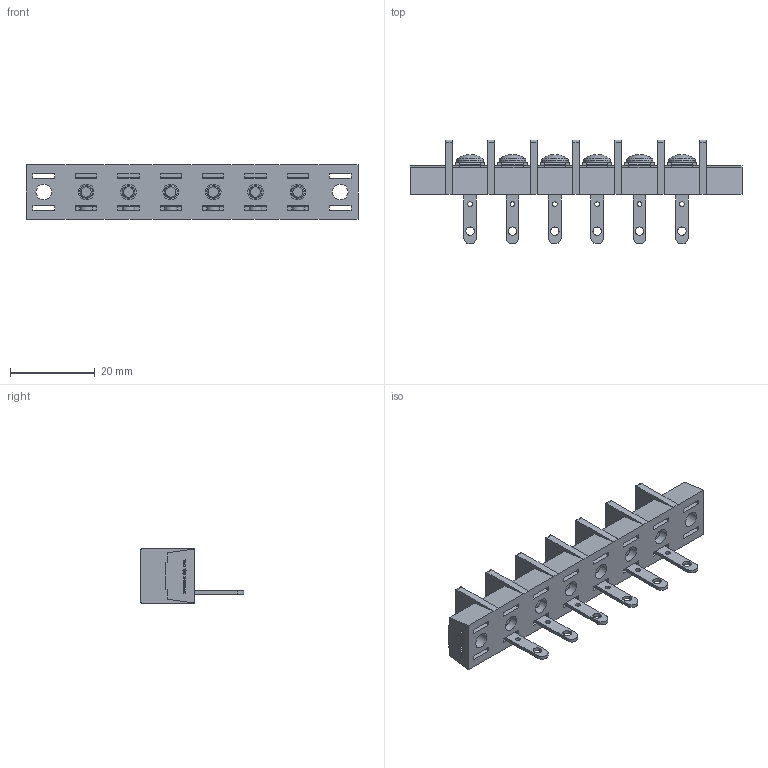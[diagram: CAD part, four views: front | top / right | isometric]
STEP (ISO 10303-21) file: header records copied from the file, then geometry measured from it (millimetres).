
FILE_DESCRIPTION(/* description */ ('Alibre Inc.'),/* implementation_level */ '2;1');
FILE_NAME(/* name */ 'export0',/* time_stamp */ '2015-10-22T20:36:37+09:00',/* author */ (''),/* organization */ (''),/* preprocessor_version */ 'ST-DEVELOPER v14',/* originating_system */ 'Alibre',/* authorisation */ '');
FILE_SCHEMA (('CONFIG_CONTROL_DESIGN'));
Length unit declared in the file: centimetre
Products named in the file (1): ID_1
Bounding box: 78.4 x 24.5 x 12.8 mm (x, y, z)
Volume: 6890.7 mm3; surface area: 8259 mm2
Topology: 1 solids, 103 shells, 2110 faces, 5428 edges, 3590 vertices
Faces by surface type: plane 1568, bspline 416, cylinder 78, cone 30, torus 12, sphere 6
Full cylindrical faces by diameter (mm): 1.1 x6, 2 x6, 3 x12, 3.7 x8, 4.6 x8, 6.3 x6
Entity records: 61285 total; most frequent: CARTESIAN_POINT 14813, ORIENTED_EDGE 10712, DIRECTION 6426, EDGE_CURVE 5356, VECTOR 4120, LINE 4120, VERTEX_POINT 3582, EDGE_LOOP 2360
